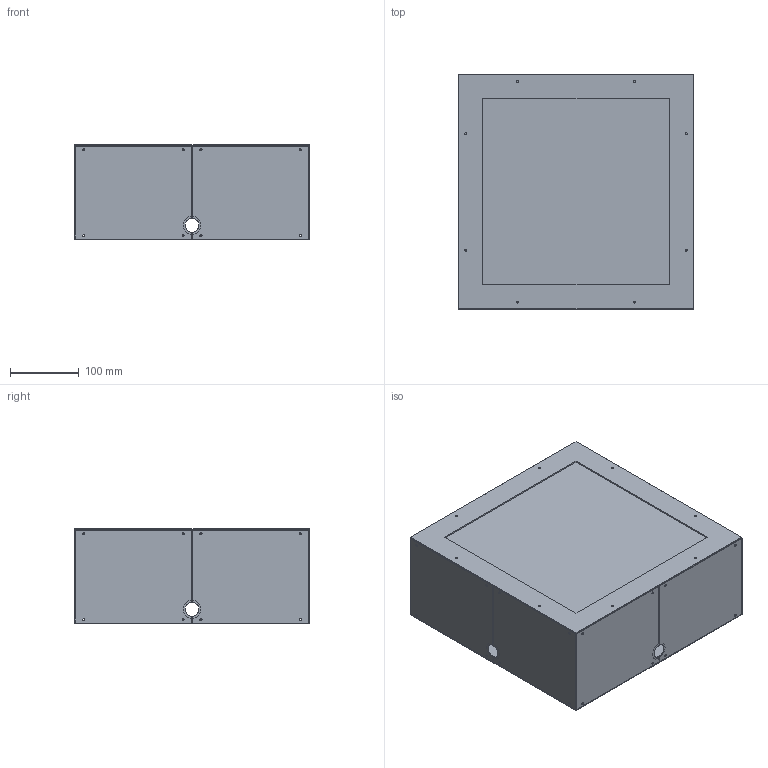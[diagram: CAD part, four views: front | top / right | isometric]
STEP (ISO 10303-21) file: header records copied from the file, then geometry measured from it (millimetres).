
FILE_DESCRIPTION(/* description */ (''),/* implementation_level */ '2;1');
FILE_NAME(/* name */ 'C:/Users/elena/Downloads/Corner QNP 30.step',/* time_stamp */ '2020-06-17T12:46:26+02:00',/* author */ (''),/* organization */ (''),/* preprocessor_version */ 'ST-DEVELOPER v18.1',/* originating_system */ 'Autodesk Translation Framework v9.3.0.1241',/* authorisation */ '');
FILE_SCHEMA (('AUTOMOTIVE_DESIGN { 1 0 10303 214 3 1 1 }'));
Length unit declared in the file: millimetre
Products named in the file (1): (Unsaved)
Bounding box: 342.4 x 342.4 x 138.2 mm (x, y, z)
Volume: 798426 mm3; surface area: 1169983.6 mm2
Topology: 3 solids, 3 shells, 327 faces, 977 edges, 651 vertices
Faces by surface type: plane 214, cylinder 104, bspline 9
Full cylindrical faces by diameter (mm): 3 x56, 4.5 x8, 26 x4
Entity records: 12775 total; most frequent: CARTESIAN_POINT 3429, ORIENTED_EDGE 1954, DIRECTION 1889, EDGE_CURVE 977, LINE 651, VECTOR 651, VERTEX_POINT 651, AXIS2_PLACEMENT_3D 619
